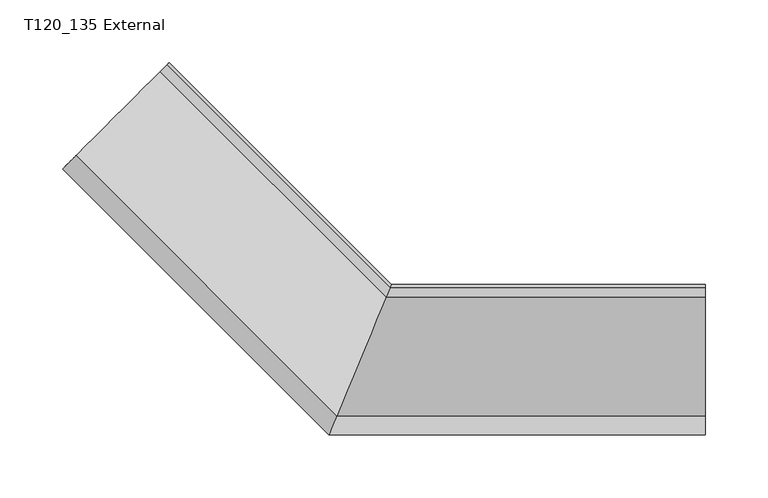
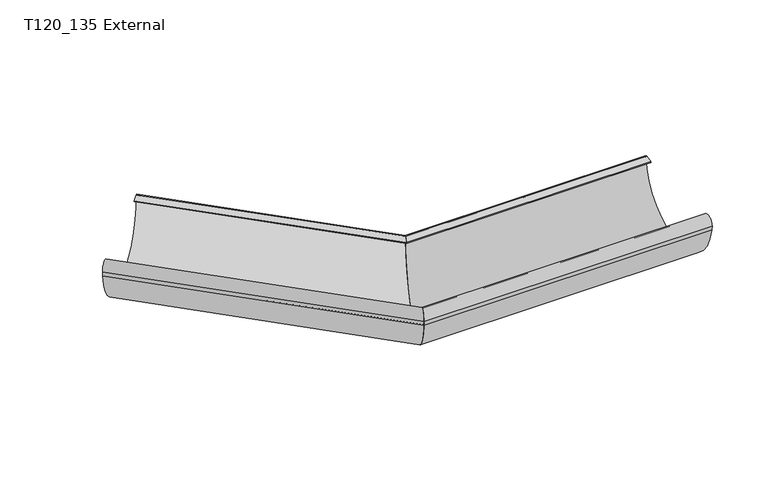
"""IFC4 building model written with IfcOpenShell, lengths in millimetres: proxy geometry, GROVIK_Gutter_Corner : T120_135 External."""

from ifc_helpers import new_model, si_unit, frame, origin, place, context, project, spatial, polyline, circle_curve, ellipse_curve, source, transform, mapped, element, save
from ifc_brep_helpers import plane_surface, cylinder_surface, revolved_surface, advanced_brep


def t120_135_external_1dace8ac(model_context):
    return source(origin(), model_context, "Body", "AdvancedBrep", [
        advanced_brep(
        [(0.0, 0.0, -1.8), (-0.9113007, -2.2000746, -0.0242687), (-4.1190209, -9.9441961, -1.4092855), (-4.0533893, -9.7857475, -2.295228), (-0.9516586, -2.2975071, -0.9559749), (-0.4158765, -1.0040147, -2.0579588), (-48.9878984, -118.2672486, -10.26861), (-49.3285918, -119.0897552, -5.3813466), (-48.4423427, -116.9501607, -9.9710741), (-48.6408631, -117.4294315, -8.9478528), (-48.8751537, -117.995059, -5.4006666), (-49.2427761, -118.8825779, -5.5500325), (-49.0144863, -118.3314375, -9.0063664), (-48.7061764, -117.5871118, -10.6080252), (-49.7035808, -119.995059, -5.2006666), (-49.3970023, -119.2549128, -10.4251966), (-261.3108057, 92.6588905, -10.4251966), (-261.834168, 92.1355282, -5.2006666), (-260.1314922, 93.838204, -10.6080252), (-260.65781, 93.3118862, -9.0063664), (-261.0475251, 92.9221711, -5.5500325), (-260.4199544, 93.5497418, -5.4006666), (-260.0199954, 93.9497008, -8.9478528), (-259.6810998, 94.2885964, -9.9710741), (-261.1940216, 92.7756746, -5.3813466), (-260.6124216, 93.3572746, -10.26861), (-177.6947937, 176.2749025, -2.0579588), (-178.609431, 175.3602652, -0.9559749), (-183.9044165, 170.0652797, -2.295228), (-184.0164566, 169.9532396, -1.4092855), (-178.5405357, 175.4291604, -0.0242687), (-176.9848481, 176.9848481, -1.8)],
        [
            (0, 1, ellipse_curve(frame((-0.785915, -1.8973666, -1.9), z_axis=(0.9238795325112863, -0.38268343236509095, 0.0), x_axis=(0.382683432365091, 0.9238795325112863, 0.0)), 2.0565452, 1.9)),
            (1, 2),
            (2, 3),
            (3, 4),
            (4, 5, ellipse_curve(frame((-0.8714423, -2.1038477, -2.0387934), z_axis=(-0.9238795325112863, 0.38268343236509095, 0.0), x_axis=(-0.382683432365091, -0.9238795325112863, 0.0)), 1.1906314, 1.1)),
            (5, 6, ellipse_curve(frame((-24.8507671, -59.995059, -1.03), z_axis=(-0.9238795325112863, 0.38268343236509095, 0.0), x_axis=(-0.382683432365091, -0.9238795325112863, 0.0)), 63.8611398, 59.0)),
            (6, 7),
            (7, 8, ellipse_curve(frame((-46.5969791, -112.495059, -5.1006666), z_axis=(-0.9238795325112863, 0.38268343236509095, 0.0), x_axis=(-0.382683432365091, -0.9238795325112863, 0.0)), 7.1445101, 6.6006666)),
            (8, 9, ellipse_curve(frame((-47.8044148, -115.4100665, -8.6258487), z_axis=(-0.9238795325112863, 0.38268343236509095, 0.0), x_axis=(-0.382683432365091, -0.9238795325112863, 0.0)), 2.2133587, 2.0448768)),
            (9, 10),
            (10, 11),
            (11, 12),
            (12, 13, ellipse_curve(frame((-47.6931581, -115.141469, -8.4977001), z_axis=(0.9238795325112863, -0.38268343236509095, 0.0), x_axis=(0.382683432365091, 0.9238795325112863, 0.0)), 3.4964184, 3.2302694)),
            (13, 14, ellipse_curve(frame((-46.5969791, -112.495059, -5.1006666), z_axis=(0.9238795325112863, -0.38268343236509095, 0.0), x_axis=(0.382683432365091, 0.9238795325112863, 0.0)), 8.1186631, 7.5006666)),
            (14, 15),
            (15, 0, ellipse_curve(frame((-24.8507671, -59.995059, -1.03), z_axis=(0.9238795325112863, -0.38268343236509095, 0.0), x_axis=(0.382683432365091, 0.9238795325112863, 0.0)), 64.943532, 60.0)),
            (16, 17),
            (17, 18, circle_curve(frame((-256.5308671, 97.4388291, -5.1006666), z_axis=(-0.707106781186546, 0.7071067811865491, 0.0), x_axis=(-0.7071067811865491, -0.707106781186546, 0.0)), 7.5006666)),
            (18, 19, circle_curve(frame((-258.4021616, 95.5675345, -8.4977001), z_axis=(-0.707106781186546, 0.7071067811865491, 0.0), x_axis=(-0.7071067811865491, -0.707106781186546, 0.0)), 3.2302694)),
            (19, 20),
            (20, 21),
            (21, 22),
            (22, 23, circle_curve(frame((-258.5920888, 95.3776074, -8.6258487), z_axis=(0.707106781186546, -0.7071067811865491, 0.0), x_axis=(-0.7071067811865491, -0.707106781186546, 0.0)), 2.0448768)),
            (23, 24, circle_curve(frame((-256.5308671, 97.4388291, -5.1006666), z_axis=(0.707106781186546, -0.7071067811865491, 0.0), x_axis=(-0.7071067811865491, -0.707106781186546, 0.0)), 6.6006666)),
            (24, 25),
            (25, 26, circle_curve(frame((-219.4077611, 134.5619351, -1.03), z_axis=(0.707106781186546, -0.7071067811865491, 0.0), x_axis=(-0.7071067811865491, -0.707106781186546, 0.0)), 59.0)),
            (26, 27, circle_curve(frame((-178.4724931, 175.4972031, -2.0387934), z_axis=(0.707106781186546, -0.7071067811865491, 0.0), x_axis=(-0.7071067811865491, -0.707106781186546, 0.0)), 1.1)),
            (27, 28),
            (28, 29),
            (29, 30),
            (30, 31, circle_curve(frame((-178.3264889, 175.6432073, -1.9), z_axis=(-0.707106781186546, 0.7071067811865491, 0.0), x_axis=(-0.7071067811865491, -0.707106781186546, 0.0)), 1.9)),
            (31, 16, circle_curve(frame((-219.4077611, 134.5619351, -1.03), z_axis=(-0.707106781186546, 0.7071067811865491, 0.0), x_axis=(-0.7071067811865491, -0.707106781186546, 0.0)), 60.0)),
            (31, 0),
            (15, 16),
            (30, 1),
            (29, 2),
            (28, 3),
            (27, 4),
            (26, 5),
            (25, 6),
            (24, 7),
            (23, 8),
            (22, 9),
            (21, 10),
            (20, 11),
            (19, 12),
            (18, 13),
            (17, 14),
        ],
        [
            plane_surface(frame((-82.8427125, -200.0, 250.0), z_axis=(0.9238795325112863, -0.38268343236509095, 0.0), x_axis=(0.0, 0.0, -1.0))),
            plane_surface(frame((-176.9848481, 176.9848481, 0.0), z_axis=(-0.707106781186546, 0.7071067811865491, 0.0), x_axis=(0.0, 0.0, 1.0))),
            cylinder_surface(frame((-219.4077611, 134.5619351, -1.03), z_axis=(-0.707106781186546, 0.7071067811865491, 0.0), x_axis=(-0.7071067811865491, -0.707106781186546, 0.0)), 60.0),
            cylinder_surface(frame((-178.3264889, 175.6432073, -1.9), z_axis=(-0.707106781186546, 0.7071067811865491, 0.0), x_axis=(-0.7071067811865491, -0.707106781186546, 0.0)), 1.9),
            plane_surface(frame((-178.5405357, 175.4291604, -0.0242687), z_axis=(-0.12448897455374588, -0.12448897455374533, 0.9843805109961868), x_axis=(0.707106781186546, -0.7071067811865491, 0.0))),
            plane_surface(frame((-184.0164566, 169.9532396, -1.4092855), z_axis=(-0.6960621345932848, -0.6960621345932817, -0.17605399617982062), x_axis=(0.707106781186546, -0.7071067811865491, 0.0))),
            plane_surface(frame((-183.9044165, 170.0652797, -2.295228), z_axis=(0.12448897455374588, 0.12448897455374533, -0.9843805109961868), x_axis=(0.707106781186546, -0.7071067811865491, 0.0))),
            revolved_surface(polyline([(-1.327077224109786, -3.2038476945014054, -2.0387934), (-179.2503105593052, 174.7193856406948, -2.0387934)]), (-178.4724931, 175.4972031, -2.0387934), (0.707106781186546, -0.7071067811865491, 0.0)),
            revolved_surface(polyline([(-49.28936723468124, -118.99505894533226, -1.03), (-261.1270611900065, 92.84263500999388, -1.03)]), (-219.4077611, 134.5619351, -1.03), (0.707106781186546, -0.7071067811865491, 0.0)),
            plane_surface(frame((-260.6124216, 93.3572746, -10.26861), z_axis=(0.6973007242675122, 0.6973007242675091, 0.1659620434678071), x_axis=(0.707106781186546, -0.7071067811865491, 0.0))),
            revolved_surface(polyline([(-49.33106466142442, -119.09572556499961, -5.1006666), (-261.1982432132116, 92.77145298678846, -5.1006666)]), (-256.5308671, 97.4388291, -5.1006666), (0.707106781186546, -0.7071067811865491, 0.0)),
            revolved_surface(polyline([(-48.651430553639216, -117.45494335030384, -8.6258487), (-260.03803505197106, 93.93166114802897, -8.6258487)]), (-258.5920888, 95.3776074, -8.6258487), (0.707106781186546, -0.7071067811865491, 0.0)),
            plane_surface(frame((-260.0199954, 93.9497008, -8.9478528), z_axis=(0.6982849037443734, 0.6982849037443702, 0.15746868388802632), x_axis=(0.707106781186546, -0.7071067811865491, 0.0))),
            plane_surface(frame((-260.4199544, 93.5497418, -5.4006666), z_axis=(-0.11735288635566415, -0.11735288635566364, 0.9861321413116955), x_axis=(0.707106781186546, -0.7071067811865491, 0.0))),
            plane_surface(frame((-261.0475251, 92.9221711, -5.5500325), z_axis=(-0.6982849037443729, -0.6982849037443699, -0.1574686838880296), x_axis=(0.707106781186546, -0.7071067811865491, 0.0))),
            cylinder_surface(frame((-258.4021616, 95.5675345, -8.4977001), z_axis=(-0.707106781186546, 0.7071067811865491, 0.0), x_axis=(-0.7071067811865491, -0.707106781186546, 0.0)), 3.2302694),
            cylinder_surface(frame((-256.5308671, 97.4388291, -5.1006666), z_axis=(-0.707106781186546, 0.7071067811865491, 0.0), x_axis=(-0.7071067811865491, -0.707106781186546, 0.0)), 7.5006666),
            plane_surface(frame((-261.834168, 92.1355282, -5.2006666), z_axis=(-0.7001161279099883, -0.7001161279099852, -0.14026694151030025), x_axis=(0.707106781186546, -0.7071067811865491, 0.0))),
        ],
        [
            (0, [[1, 2, 3, 4, 5, 6, 7, 8, 9, 10, 11, 12, 13, 14, 15, 16]]),
            (1, [[17, 18, 19, 20, 21, 22, 23, 24, 25, 26, 27, 28, 29, 30, 31, 32]]),
            (2, [[33, -16, 34, -32]]),
            (3, [[35, -1, -33, -31]]),
            (4, [[36, -2, -35, -30]]),
            (5, [[37, -3, -36, -29]]),
            (6, [[38, -4, -37, -28]]),
            (7, [[39, -5, -38, -27]]),
            (8, [[40, -6, -39, -26]]),
            (9, [[41, -7, -40, -25]]),
            (10, [[42, -8, -41, -24]]),
            (11, [[43, -9, -42, -23]]),
            (12, [[44, -10, -43, -22]]),
            (13, [[45, -11, -44, -21]]),
            (14, [[46, -12, -45, -20]]),
            (15, [[47, -13, -46, -19]]),
            (16, [[48, -14, -47, -18]]),
            (17, [[-34, -15, -48, -17]]),
        ],
    ),
        advanced_brep(
        [(250.2943725, -119.2549128, -10.4251966), (250.2943725, 0.0, -1.8), (250.2943725, -2.2000746, -0.0242687), (250.2943725, -9.9441961, -1.4092855), (250.2943725, -9.7857475, -2.295228), (250.2943725, -2.2975071, -0.9559749), (250.2943725, -1.0040147, -2.0579588), (250.2943725, -118.2672486, -10.26861), (250.2943725, -119.0897552, -5.3813466), (250.2943725, -116.9501607, -9.9710741), (250.2943725, -117.4294315, -8.9478528), (250.2943725, -117.995059, -5.4006666), (250.2943725, -118.8825779, -5.5500325), (250.2943725, -118.3314375, -9.0063664), (250.2943725, -117.5871118, -10.6080252), (250.2943725, -119.995059, -5.2006666), (-49.3970023, -119.2549128, -10.4251966), (0.0, 0.0, -1.8), (-0.9113007, -2.2000746, -0.0242687), (-4.1190209, -9.9441961, -1.4092855), (-4.0533893, -9.7857475, -2.295228), (-0.9516586, -2.2975071, -0.9559749), (-0.4158765, -1.0040147, -2.0579588), (-48.9878984, -118.2672486, -10.26861), (-49.3285918, -119.0897552, -5.3813466), (-48.4423427, -116.9501607, -9.9710741), (-48.6408631, -117.4294315, -8.9478528), (-48.8751537, -117.995059, -5.4006666), (-49.2427761, -118.8825779, -5.5500325), (-49.0144863, -118.3314375, -9.0063664), (-48.7061764, -117.5871118, -10.6080252), (-49.7035808, -119.995059, -5.2006666)],
        [
            (0, 1, circle_curve(frame((250.2943725, -59.995059, -1.03), z_axis=(1.0, 0.0, 0.0), x_axis=(0.0, -1.0, 0.0)), 60.0)),
            (1, 2, circle_curve(frame((250.2943725, -1.8973666, -1.9), z_axis=(1.0, 0.0, 0.0), x_axis=(0.0, -1.0, 0.0)), 1.9)),
            (2, 3),
            (3, 4),
            (4, 5),
            (5, 6, circle_curve(frame((250.2943725, -2.1038477, -2.0387934), z_axis=(-1.0, 0.0, 0.0), x_axis=(0.0, -1.0, 0.0)), 1.1)),
            (6, 7, circle_curve(frame((250.2943725, -59.995059, -1.03), z_axis=(-1.0, 0.0, 0.0), x_axis=(0.0, -1.0, 0.0)), 59.0)),
            (7, 8),
            (8, 9, circle_curve(frame((250.2943725, -112.495059, -5.1006666), z_axis=(-1.0, 0.0, 0.0), x_axis=(0.0, -1.0, 0.0)), 6.6006666)),
            (9, 10, circle_curve(frame((250.2943725, -115.4100665, -8.6258487), z_axis=(-1.0, 0.0, 0.0), x_axis=(0.0, -1.0, 0.0)), 2.0448768)),
            (10, 11),
            (11, 12),
            (12, 13),
            (13, 14, circle_curve(frame((250.2943725, -115.141469, -8.4977001), z_axis=(1.0, 0.0, 0.0), x_axis=(0.0, -1.0, 0.0)), 3.2302694)),
            (14, 15, circle_curve(frame((250.2943725, -112.495059, -5.1006666), z_axis=(1.0, 0.0, 0.0), x_axis=(0.0, -1.0, 0.0)), 7.5006666)),
            (15, 0),
            (0, 16),
            (16, 17, ellipse_curve(frame((-24.8507671, -59.995059, -1.03), z_axis=(0.9238795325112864, -0.38268343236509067, 0.0), x_axis=(0.3826834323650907, 0.9238795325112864, 0.0)), 64.943532, 60.0)),
            (17, 1),
            (17, 18, ellipse_curve(frame((-0.785915, -1.8973666, -1.9), z_axis=(0.9238795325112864, -0.38268343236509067, 0.0), x_axis=(0.3826834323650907, 0.9238795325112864, 0.0)), 2.0565452, 1.9)),
            (18, 2),
            (18, 19),
            (19, 3),
            (19, 20),
            (20, 4),
            (20, 21),
            (21, 5),
            (21, 22, ellipse_curve(frame((-0.8714423, -2.1038477, -2.0387934), z_axis=(-0.9238795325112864, 0.38268343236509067, 0.0), x_axis=(-0.3826834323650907, -0.9238795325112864, 0.0)), 1.1906314, 1.1)),
            (22, 6),
            (22, 23, ellipse_curve(frame((-24.8507671, -59.995059, -1.03), z_axis=(-0.9238795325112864, 0.38268343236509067, 0.0), x_axis=(-0.3826834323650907, -0.9238795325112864, 0.0)), 63.8611398, 59.0)),
            (23, 7),
            (23, 24),
            (24, 8),
            (24, 25, ellipse_curve(frame((-46.5969791, -112.495059, -5.1006666), z_axis=(-0.9238795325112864, 0.38268343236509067, 0.0), x_axis=(-0.3826834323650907, -0.9238795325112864, 0.0)), 7.1445101, 6.6006666)),
            (25, 9),
            (25, 26, ellipse_curve(frame((-47.8044148, -115.4100665, -8.6258487), z_axis=(-0.9238795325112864, 0.38268343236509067, 0.0), x_axis=(-0.3826834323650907, -0.9238795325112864, 0.0)), 2.2133587, 2.0448768)),
            (26, 10),
            (26, 27),
            (27, 11),
            (27, 28),
            (28, 12),
            (28, 29),
            (29, 13),
            (29, 30, ellipse_curve(frame((-47.6931581, -115.141469, -8.4977001), z_axis=(0.9238795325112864, -0.38268343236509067, 0.0), x_axis=(0.3826834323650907, 0.9238795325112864, 0.0)), 3.4964184, 3.2302694)),
            (30, 14),
            (30, 31, ellipse_curve(frame((-46.5969791, -112.495059, -5.1006666), z_axis=(0.9238795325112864, -0.38268343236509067, 0.0), x_axis=(0.3826834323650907, 0.9238795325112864, 0.0)), 8.1186631, 7.5006666)),
            (31, 15),
            (31, 16),
        ],
        [
            plane_surface(frame((250.2943725, 0.0, 0.0), z_axis=(1.0, 0.0, 0.0), x_axis=(0.0, 0.0, 1.0))),
            cylinder_surface(frame((250.2943725, -59.995059, -1.03), z_axis=(1.0, 0.0, 0.0), x_axis=(0.0, -1.0, 0.0)), 60.0),
            cylinder_surface(frame((250.2943725, -1.8973666, -1.9), z_axis=(1.0, 0.0, 0.0), x_axis=(0.0, -1.0, 0.0)), 1.9),
            plane_surface(frame((250.2943725, -2.2000746, -0.0242687), z_axis=(0.0, -0.17605399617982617, 0.9843805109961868), x_axis=(-1.0, 0.0, 0.0))),
            plane_surface(frame((250.2943725, -9.9441961, -1.4092855), z_axis=(0.0, -0.9843805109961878, -0.1760539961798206), x_axis=(-1.0, 0.0, 0.0))),
            plane_surface(frame((250.2943725, -9.7857475, -2.295228), z_axis=(0.0, 0.17605399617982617, -0.9843805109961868), x_axis=(-1.0, 0.0, 0.0))),
            revolved_surface(polyline([(-1.3270772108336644, -3.2038477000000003, -2.0387934), (250.2943725, -3.2038477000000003, -2.0387934)]), (250.2943725, -2.1038477, -2.0387934), (-1.0, 0.0, 0.0)),
            revolved_surface(polyline([(-49.2893672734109, -118.995059, -1.03), (250.2943725, -118.995059, -1.03)]), (250.2943725, -59.995059, -1.03), (-1.0, 0.0, 0.0)),
            plane_surface(frame((250.2943725, -118.2672486, -10.26861), z_axis=(0.0, 0.9861321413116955, 0.16596204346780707), x_axis=(-1.0, 0.0, 0.0))),
            revolved_surface(polyline([(-49.33106474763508, -119.0957256, -5.1006666), (250.2943725, -119.0957256, -5.1006666)]), (250.2943725, -112.495059, -5.1006666), (-1.0, 0.0, 0.0)),
            revolved_surface(polyline([(-48.65143050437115, -117.4549433, -8.6258487), (250.2943725, -117.4549433, -8.6258487)]), (250.2943725, -115.4100665, -8.6258487), (-1.0, 0.0, 0.0)),
            plane_surface(frame((250.2943725, -117.4294315, -8.9478528), z_axis=(0.0, 0.9875239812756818, 0.1574686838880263), x_axis=(-1.0, 0.0, 0.0))),
            plane_surface(frame((250.2943725, -117.995059, -5.4006666), z_axis=(0.0, -0.1659620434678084, 0.9861321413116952), x_axis=(-1.0, 0.0, 0.0))),
            plane_surface(frame((250.2943725, -118.8825779, -5.5500325), z_axis=(0.0, -0.9875239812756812, -0.15746868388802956), x_axis=(-1.0, 0.0, 0.0))),
            cylinder_surface(frame((250.2943725, -115.141469, -8.4977001), z_axis=(1.0, 0.0, 0.0), x_axis=(0.0, -1.0, 0.0)), 3.2302694),
            cylinder_surface(frame((250.2943725, -112.495059, -5.1006666), z_axis=(1.0, 0.0, 0.0), x_axis=(0.0, -1.0, 0.0)), 7.5006666),
            plane_surface(frame((250.2943725, -119.995059, -5.2006666), z_axis=(0.0, -0.9901137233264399, -0.14026694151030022), x_axis=(-1.0, 0.0, 0.0))),
            plane_surface(frame((-82.8427125, -200.0, 250.0), z_axis=(-0.9238795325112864, 0.38268343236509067, 0.0), x_axis=(0.0, 0.0, -1.0))),
        ],
        [
            (0, [[1, 2, 3, 4, 5, 6, 7, 8, 9, 10, 11, 12, 13, 14, 15, 16]]),
            (1, [[-1, 17, 18, 19]]),
            (2, [[-2, -19, 20, 21]]),
            (3, [[-3, -21, 22, 23]]),
            (4, [[-4, -23, 24, 25]]),
            (5, [[-5, -25, 26, 27]]),
            (6, [[-6, -27, 28, 29]]),
            (7, [[-7, -29, 30, 31]]),
            (8, [[-8, -31, 32, 33]]),
            (9, [[-9, -33, 34, 35]]),
            (10, [[-10, -35, 36, 37]]),
            (11, [[-11, -37, 38, 39]]),
            (12, [[-12, -39, 40, 41]]),
            (13, [[-13, -41, 42, 43]]),
            (14, [[-14, -43, 44, 45]]),
            (15, [[-15, -45, 46, 47]]),
            (16, [[-16, -47, 48, -17]]),
            (17, [[-18, -48, -46, -44, -42, -40, -38, -36, -34, -32, -30, -28, -26, -24, -22, -20]]),
        ],
    ),
    ])


if __name__ == "__main__":
    model = new_model("IFC4")
    model_context = context("Model", 3, world=origin())
    ifc_project = project(units=[si_unit("LENGTHUNIT", "METRE", prefix="MILLI")], contexts=[model_context])
    site = spatial("IfcSite", under=ifc_project)
    building = spatial("IfcBuilding", under=site)
    placement = place(None, origin())
    t120_135_external_shape = t120_135_external_1dace8ac(model_context)
    element("IfcBuildingElementProxy", 1, Name="GROVIK_Gutter_Corner : T120_135 External", ObjectType="GROVIK_Gutter_Corner : T120_135 External", at=placement, inside=building, context=model_context, shape_type="MappedRepresentation", body=[
        mapped(t120_135_external_shape, transform((0.0, 0.0, 0.0), x_axis=(1.0, 0.0, 0.0), y_axis=(0.0, 1.0, 0.0), z_axis=(0.0, 0.0, 1.0))),
    ])
    save(model, "model.ifc")
